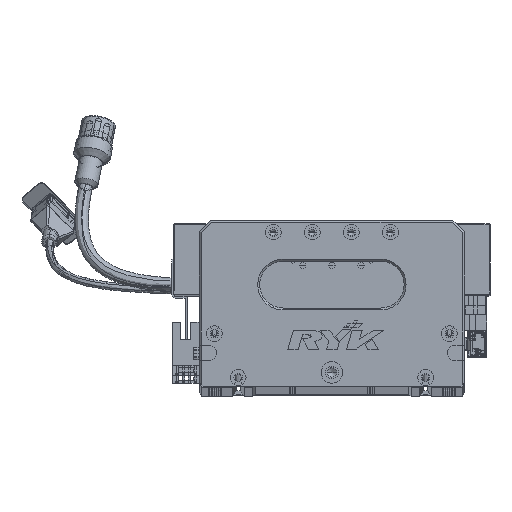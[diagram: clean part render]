
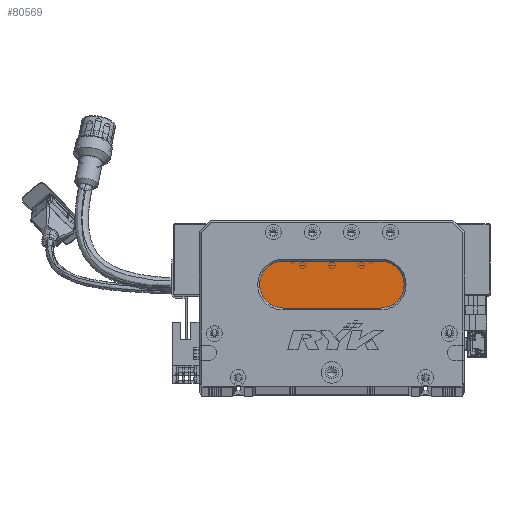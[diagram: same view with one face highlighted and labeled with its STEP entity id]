
A CAD part, top view. The second image highlights one B-rep face of the part: STEP entity #80569.
In plain terms, the highlighted planar face has unit normal (0, 0, 1) as drawn and (0, 0, -1) by its records, which use the part's own axes.
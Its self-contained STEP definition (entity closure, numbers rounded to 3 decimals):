
#13104 = LINE ( 'NONE', #14214, #53526 ) ;
#13449 = DIRECTION ( 'NONE',  ( -1., 0., 0. ) ) ;
#14214 = CARTESIAN_POINT ( 'NONE',  ( 93., 40., 13. ) ) ;
#14361 = DIRECTION ( 'NONE',  ( 0., 0., -1. ) ) ;
#16190 = DIRECTION ( 'NONE',  ( -1., 0., 0. ) ) ;
#16412 = EDGE_CURVE ( 'NONE', #31012, #90440, #86279, .T. ) ;
#19152 = DIRECTION ( 'NONE',  ( 0., 0., -1. ) ) ;
#23221 = DIRECTION ( 'NONE',  ( 1., 0., 0. ) ) ;
#23356 = ORIENTED_EDGE ( 'NONE', *, *, #71895, .T. ) ;
#29503 = DIRECTION ( 'NONE',  ( -1., 0., 0. ) ) ;
#31012 = VERTEX_POINT ( 'NONE', #49112 ) ;
#33217 = DIRECTION ( 'NONE',  ( -1., 0., 0. ) ) ;
#37194 = CARTESIAN_POINT ( 'NONE',  ( 93., 64., 13. ) ) ;
#38649 = ORIENTED_EDGE ( 'NONE', *, *, #16412, .T. ) ;
#45096 = CARTESIAN_POINT ( 'NONE',  ( 93., 52., 13. ) ) ;
#46111 = AXIS2_PLACEMENT_3D ( 'NONE', #121810, #19152, #29503 ) ;
#47086 = CIRCLE ( 'NONE', #75961, 12. ) ;
#48205 = AXIS2_PLACEMENT_3D ( 'NONE', #45096, #14361, #16190 ) ;
#49112 = CARTESIAN_POINT ( 'NONE',  ( 43., 64., 13. ) ) ;
#52154 = DIRECTION ( 'NONE',  ( -1., 0., 0. ) ) ;
#52447 = CARTESIAN_POINT ( 'NONE',  ( 93., 40., 13. ) ) ;
#53526 = VECTOR ( 'NONE', #52154, 1000. ) ;
#57609 = CARTESIAN_POINT ( 'NONE',  ( 31., 52., 13. ) ) ;
#67373 = VERTEX_POINT ( 'NONE', #68856 ) ;
#68254 = CIRCLE ( 'NONE', #90303, 12. ) ;
#68856 = CARTESIAN_POINT ( 'NONE',  ( 43., 40., 13. ) ) ;
#71895 = EDGE_CURVE ( 'NONE', #133593, #67373, #13104, .T. ) ;
#75445 = CARTESIAN_POINT ( 'NONE',  ( 43., 52., 13. ) ) ;
#75961 = AXIS2_PLACEMENT_3D ( 'NONE', #75445, #106600, #13449 ) ;
#80569 = ADVANCED_FACE ( 'NONE', ( #87241 ), #108864, .T. ) ;
#84808 = CARTESIAN_POINT ( 'NONE',  ( 93., 52., 13. ) ) ;
#86279 = LINE ( 'NONE', #37194, #94322 ) ;
#87241 = FACE_OUTER_BOUND ( 'NONE', #128156, .T. ) ;
#90303 = AXIS2_PLACEMENT_3D ( 'NONE', #84808, #95231, #33217 ) ;
#90440 = VERTEX_POINT ( 'NONE', #115274 ) ;
#94322 = VECTOR ( 'NONE', #23221, 1000. ) ;
#95231 = DIRECTION ( 'NONE',  ( 0., 0., -1. ) ) ;
#96276 = ORIENTED_EDGE ( 'NONE', *, *, #107827, .T. ) ;
#100798 = ORIENTED_EDGE ( 'NONE', *, *, #127608, .T. ) ;
#106600 = DIRECTION ( 'NONE',  ( 0., 0., -1. ) ) ;
#107827 = EDGE_CURVE ( 'NONE', #90440, #133593, #68254, .T. ) ;
#108115 = EDGE_CURVE ( 'NONE', #67373, #114983, #123232, .T. ) ;
#108864 = PLANE ( 'NONE',  #48205 ) ;
#109753 = ORIENTED_EDGE ( 'NONE', *, *, #108115, .T. ) ;
#114983 = VERTEX_POINT ( 'NONE', #57609 ) ;
#115274 = CARTESIAN_POINT ( 'NONE',  ( 93., 64., 13. ) ) ;
#121810 = CARTESIAN_POINT ( 'NONE',  ( 43., 52., 13. ) ) ;
#123232 = CIRCLE ( 'NONE', #46111, 12. ) ;
#127608 = EDGE_CURVE ( 'NONE', #114983, #31012, #47086, .T. ) ;
#128156 = EDGE_LOOP ( 'NONE', ( #96276, #23356, #109753, #100798, #38649 ) ) ;
#133593 = VERTEX_POINT ( 'NONE', #52447 ) ;
